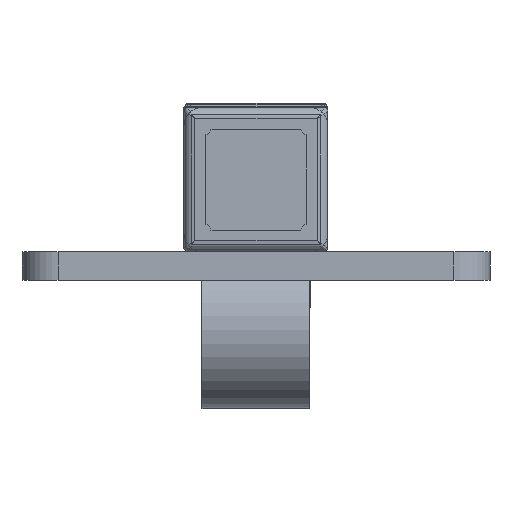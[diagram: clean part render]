
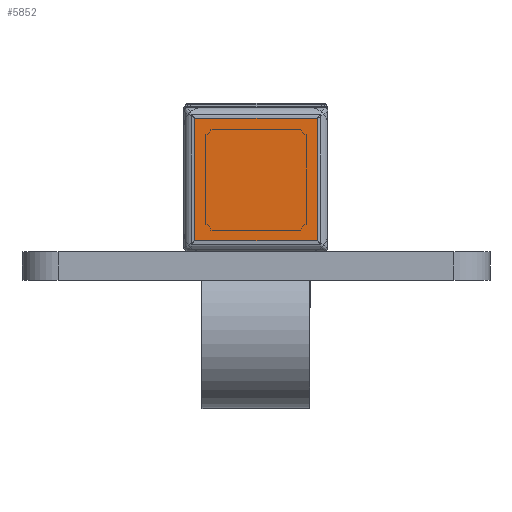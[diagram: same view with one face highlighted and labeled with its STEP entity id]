
A CAD part, front view. The second image highlights one B-rep face of the part: STEP entity #5852.
In plain terms, the highlighted planar face has unit normal (0, -1, 0).
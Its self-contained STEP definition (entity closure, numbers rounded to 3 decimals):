
#53 = VERTEX_POINT ( 'NONE', #3101 ) ;
#343 = ORIENTED_EDGE ( 'NONE', *, *, #10149, .T. ) ;
#545 = CARTESIAN_POINT ( 'NONE',  ( 19., -5., -17. ) ) ;
#838 = VERTEX_POINT ( 'NONE', #3803 ) ;
#839 = DIRECTION ( 'NONE',  ( 0., 0., 1. ) ) ;
#1039 = EDGE_LOOP ( 'NONE', ( #2662, #6390, #343, #6371 ) ) ;
#1958 = CARTESIAN_POINT ( 'NONE',  ( 0., -5., 0. ) ) ;
#1994 = CARTESIAN_POINT ( 'NONE',  ( -17., -5., -17. ) ) ;
#2345 = VECTOR ( 'NONE', #8682, 1000. ) ;
#2662 = ORIENTED_EDGE ( 'NONE', *, *, #10250, .T. ) ;
#2800 = DIRECTION ( 'NONE',  ( 0., 0., 1. ) ) ;
#3042 = VERTEX_POINT ( 'NONE', #1994 ) ;
#3101 = CARTESIAN_POINT ( 'NONE',  ( 17., -5., 17. ) ) ;
#3166 = VERTEX_POINT ( 'NONE', #4642 ) ;
#3225 = DIRECTION ( 'NONE',  ( -1., 0., 0. ) ) ;
#3803 = CARTESIAN_POINT ( 'NONE',  ( -17., -5., 17. ) ) ;
#4642 = CARTESIAN_POINT ( 'NONE',  ( 17., -5., -17. ) ) ;
#5100 = VECTOR ( 'NONE', #839, 1000. ) ;
#5183 = PLANE ( 'NONE',  #9621 ) ;
#5345 = VECTOR ( 'NONE', #3225, 1000. ) ;
#5685 = CARTESIAN_POINT ( 'NONE',  ( 17., -5., 19. ) ) ;
#5852 = ADVANCED_FACE ( 'NONE', ( #8236 ), #5183, .T. ) ;
#6335 = CARTESIAN_POINT ( 'NONE',  ( -17., -5., -19. ) ) ;
#6371 = ORIENTED_EDGE ( 'NONE', *, *, #10111, .T. ) ;
#6390 = ORIENTED_EDGE ( 'NONE', *, *, #10198, .T. ) ;
#7180 = DIRECTION ( 'NONE',  ( 0., 0., -1. ) ) ;
#7285 = LINE ( 'NONE', #5685, #5100 ) ;
#7531 = LINE ( 'NONE', #10448, #5345 ) ;
#7640 = DIRECTION ( 'NONE',  ( 0., -1., 0. ) ) ;
#8044 = VECTOR ( 'NONE', #7180, 1000. ) ;
#8236 = FACE_OUTER_BOUND ( 'NONE', #1039, .T. ) ;
#8557 = LINE ( 'NONE', #545, #2345 ) ;
#8682 = DIRECTION ( 'NONE',  ( 1., 0., 0. ) ) ;
#9621 = AXIS2_PLACEMENT_3D ( 'NONE', #1958, #7640, #2800 ) ;
#10111 = EDGE_CURVE ( 'NONE', #3042, #3166, #8557, .T. ) ;
#10149 = EDGE_CURVE ( 'NONE', #838, #3042, #10165, .T. ) ;
#10165 = LINE ( 'NONE', #6335, #8044 ) ;
#10198 = EDGE_CURVE ( 'NONE', #53, #838, #7531, .T. ) ;
#10250 = EDGE_CURVE ( 'NONE', #3166, #53, #7285, .T. ) ;
#10448 = CARTESIAN_POINT ( 'NONE',  ( -19., -5., 17. ) ) ;
